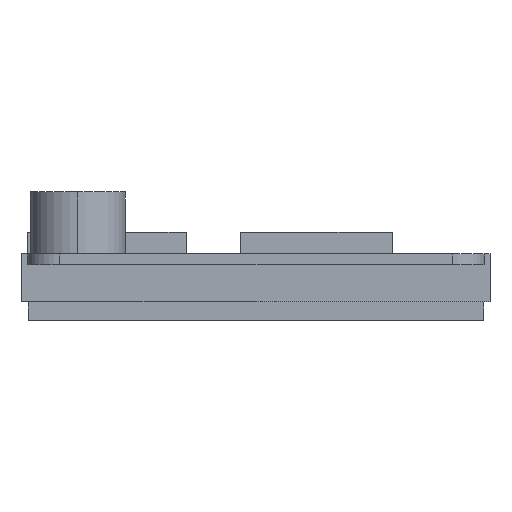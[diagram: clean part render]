
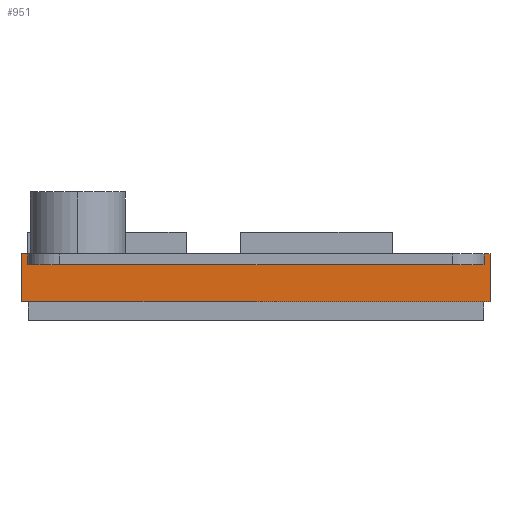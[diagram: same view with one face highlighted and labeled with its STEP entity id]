
A CAD part, left-side view. The second image highlights one B-rep face of the part: STEP entity #951.
In plain terms, the highlighted planar face has unit normal (-1, 0, 0).
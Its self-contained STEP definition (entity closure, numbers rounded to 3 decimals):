
#53=DIRECTION('',(0.,-1.,0.));
#54=VECTOR('',#53,0.5);
#55=CARTESIAN_POINT('',(-39.871,-21.4,0.));
#56=LINE('',#55,#54);
#79=DIRECTION('',(0.,-1.,0.));
#80=VECTOR('',#79,0.5);
#81=CARTESIAN_POINT('',(-39.871,21.9,0.));
#82=LINE('',#81,#80);
#207=DIRECTION('',(0.,1.,0.));
#208=VECTOR('',#207,42.8);
#209=CARTESIAN_POINT('',(-39.871,-21.4,-1.));
#210=LINE('',#209,#208);
#283=DIRECTION('',(0.,0.,-1.));
#284=VECTOR('',#283,4.5);
#285=CARTESIAN_POINT('',(-39.871,21.9,0.));
#286=LINE('',#285,#284);
#287=DIRECTION('',(0.,0.,1.));
#288=VECTOR('',#287,1.);
#289=CARTESIAN_POINT('',(-39.871,-21.4,-1.));
#290=LINE('',#289,#288);
#311=DIRECTION('',(0.,0.,1.));
#312=VECTOR('',#311,1.);
#313=CARTESIAN_POINT('',(-39.871,21.4,-1.));
#314=LINE('',#313,#312);
#331=DIRECTION('',(0.,-1.,0.));
#332=VECTOR('',#331,43.8);
#333=CARTESIAN_POINT('',(-39.871,21.9,-4.5));
#334=LINE('',#333,#332);
#363=DIRECTION('',(0.,0.,-1.));
#364=VECTOR('',#363,4.5);
#365=CARTESIAN_POINT('',(-39.871,-21.9,0.));
#366=LINE('',#365,#364);
#573=CARTESIAN_POINT('',(-39.871,-21.9,0.));
#575=VERTEX_POINT('',#573);
#578=CARTESIAN_POINT('',(-39.871,21.9,0.));
#580=VERTEX_POINT('',#578);
#581=CARTESIAN_POINT('',(-39.871,21.9,-4.5));
#582=CARTESIAN_POINT('',(-39.871,-21.9,-4.5));
#583=VERTEX_POINT('',#581);
#584=VERTEX_POINT('',#582);
#589=CARTESIAN_POINT('',(-39.871,-21.4,-1.));
#590=CARTESIAN_POINT('',(-39.871,21.4,-1.));
#591=VERTEX_POINT('',#589);
#592=VERTEX_POINT('',#590);
#597=CARTESIAN_POINT('',(-39.871,21.4,0.));
#598=VERTEX_POINT('',#597);
#601=CARTESIAN_POINT('',(-39.871,-21.4,0.));
#602=VERTEX_POINT('',#601);
#931=CARTESIAN_POINT('',(-39.871,21.9,0.));
#932=DIRECTION('',(-1.,0.,0.));
#933=DIRECTION('',(0.,-1.,0.));
#934=AXIS2_PLACEMENT_3D('',#931,#932,#933);
#935=PLANE('',#934);
#936=ORIENTED_EDGE('',*,*,#796,.F.);
#938=ORIENTED_EDGE('',*,*,#937,.T.);
#939=ORIENTED_EDGE('',*,*,#680,.T.);
#941=ORIENTED_EDGE('',*,*,#940,.T.);
#943=ORIENTED_EDGE('',*,*,#942,.F.);
#945=ORIENTED_EDGE('',*,*,#944,.F.);
#946=ORIENTED_EDGE('',*,*,#692,.T.);
#948=ORIENTED_EDGE('',*,*,#947,.F.);
#949=EDGE_LOOP('',(#936,#938,#939,#941,#943,#945,#946,#948));
#950=FACE_OUTER_BOUND('',#949,.F.);
#680=EDGE_CURVE('',#602,#575,#56,.T.);
#692=EDGE_CURVE('',#580,#598,#82,.T.);
#796=EDGE_CURVE('',#591,#592,#210,.T.);
#937=EDGE_CURVE('',#591,#602,#290,.T.);
#940=EDGE_CURVE('',#575,#584,#366,.T.);
#942=EDGE_CURVE('',#583,#584,#334,.T.);
#944=EDGE_CURVE('',#580,#583,#286,.T.);
#947=EDGE_CURVE('',#592,#598,#314,.T.);
#951=ADVANCED_FACE('',(#950),#935,.T.);
